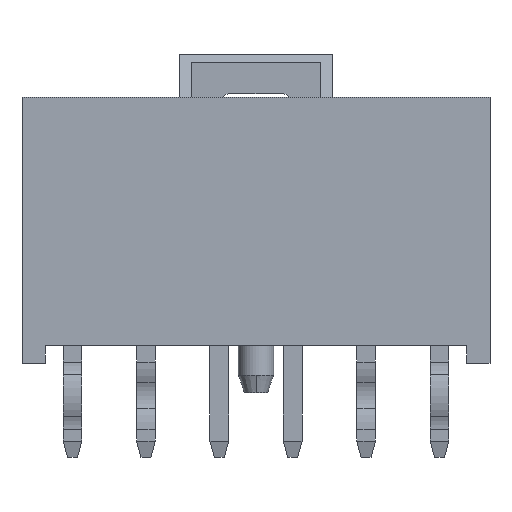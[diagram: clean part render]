
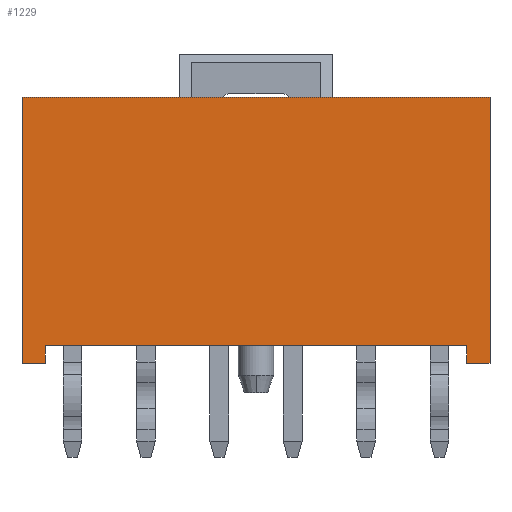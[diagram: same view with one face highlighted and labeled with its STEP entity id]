
A CAD part, front view. The second image highlights one B-rep face of the part: STEP entity #1229.
In plain terms, the highlighted planar face has unit normal (0, -1, 0).
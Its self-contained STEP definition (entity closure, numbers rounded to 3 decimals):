
#171 = EDGE_CURVE ( 'NONE', #889, #11331, #3081, .T. ) ;
#300 = CARTESIAN_POINT ( 'NONE',  ( -7.17, -1.74, -4.23 ) ) ;
#446 = DIRECTION ( 'NONE',  ( -1., 0., 0. ) ) ;
#889 = VERTEX_POINT ( 'NONE', #2585 ) ;
#904 = EDGE_CURVE ( 'NONE', #3336, #1570, #10768, .T. ) ;
#949 = DIRECTION ( 'NONE',  ( 0., 0., -1. ) ) ;
#1168 = DIRECTION ( 'NONE',  ( 0., 1., 0. ) ) ;
#1229 = ADVANCED_FACE ( 'NONE', ( #3954 ), #9616, .F. ) ;
#1570 = VERTEX_POINT ( 'NONE', #4566 ) ;
#1730 = VECTOR ( 'NONE', #446, 1000. ) ;
#1927 = CARTESIAN_POINT ( 'NONE',  ( 7.97, -1.74, -4.83 ) ) ;
#2585 = CARTESIAN_POINT ( 'NONE',  ( 7.17, -1.74, -4.23 ) ) ;
#2732 = EDGE_CURVE ( 'NONE', #6581, #13623, #13670, .T. ) ;
#2752 = EDGE_LOOP ( 'NONE', ( #16599, #14012, #16539, #16486, #5920, #5099, #8651, #11677 ) ) ;
#3081 = LINE ( 'NONE', #8747, #8598 ) ;
#3336 = VERTEX_POINT ( 'NONE', #7320 ) ;
#3921 = VECTOR ( 'NONE', #13547, 1000. ) ;
#3954 = FACE_OUTER_BOUND ( 'NONE', #2752, .T. ) ;
#4228 = CARTESIAN_POINT ( 'NONE',  ( -7.97, -1.74, 4.23 ) ) ;
#4375 = VERTEX_POINT ( 'NONE', #6668 ) ;
#4566 = CARTESIAN_POINT ( 'NONE',  ( -7.97, -1.74, -4.83 ) ) ;
#4933 = LINE ( 'NONE', #10599, #13078 ) ;
#5091 = CARTESIAN_POINT ( 'NONE',  ( -7.97, -1.74, 4.23 ) ) ;
#5099 = ORIENTED_EDGE ( 'NONE', *, *, #904, .F. ) ;
#5259 = CARTESIAN_POINT ( 'NONE',  ( -7.17, -1.74, -4.23 ) ) ;
#5920 = ORIENTED_EDGE ( 'NONE', *, *, #12212, .T. ) ;
#6211 = EDGE_CURVE ( 'NONE', #13623, #4375, #7513, .T. ) ;
#6459 = VERTEX_POINT ( 'NONE', #4228 ) ;
#6581 = VERTEX_POINT ( 'NONE', #15926 ) ;
#6668 = CARTESIAN_POINT ( 'NONE',  ( 7.17, -1.74, -4.83 ) ) ;
#6990 = LINE ( 'NONE', #12651, #12713 ) ;
#7062 = CARTESIAN_POINT ( 'NONE',  ( 7.97, -1.74, -4.83 ) ) ;
#7320 = CARTESIAN_POINT ( 'NONE',  ( -7.17, -1.74, -4.83 ) ) ;
#7513 = LINE ( 'NONE', #7062, #1730 ) ;
#7877 = CARTESIAN_POINT ( 'NONE',  ( -7.17, -1.74, -4.83 ) ) ;
#7949 = DIRECTION ( 'NONE',  ( 0., 0., -1. ) ) ;
#8598 = VECTOR ( 'NONE', #12736, 1000. ) ;
#8651 = ORIENTED_EDGE ( 'NONE', *, *, #14592, .F. ) ;
#8747 = CARTESIAN_POINT ( 'NONE',  ( 7.17, -1.74, -4.23 ) ) ;
#9616 = PLANE ( 'NONE',  #16647 ) ;
#10599 = CARTESIAN_POINT ( 'NONE',  ( -7.97, -1.74, 4.23 ) ) ;
#10664 = VECTOR ( 'NONE', #949, 1000. ) ;
#10768 = LINE ( 'NONE', #7877, #3921 ) ;
#11331 = VERTEX_POINT ( 'NONE', #300 ) ;
#11677 = ORIENTED_EDGE ( 'NONE', *, *, #171, .F. ) ;
#12106 = VECTOR ( 'NONE', #7949, 1000. ) ;
#12212 = EDGE_CURVE ( 'NONE', #6459, #1570, #4933, .T. ) ;
#12651 = CARTESIAN_POINT ( 'NONE',  ( 7.17, -1.74, -4.23 ) ) ;
#12713 = VECTOR ( 'NONE', #12836, 1000. ) ;
#12736 = DIRECTION ( 'NONE',  ( -1., 0., 0. ) ) ;
#12836 = DIRECTION ( 'NONE',  ( 0., 0., -1. ) ) ;
#13078 = VECTOR ( 'NONE', #16257, 1000. ) ;
#13547 = DIRECTION ( 'NONE',  ( -1., 0., 0. ) ) ;
#13623 = VERTEX_POINT ( 'NONE', #1927 ) ;
#13670 = LINE ( 'NONE', #16545, #10664 ) ;
#13889 = DIRECTION ( 'NONE',  ( 1., 0., 0. ) ) ;
#14012 = ORIENTED_EDGE ( 'NONE', *, *, #6211, .F. ) ;
#14136 = EDGE_CURVE ( 'NONE', #889, #4375, #6990, .T. ) ;
#14592 = EDGE_CURVE ( 'NONE', #11331, #3336, #15368, .T. ) ;
#15219 = VECTOR ( 'NONE', #16593, 1000. ) ;
#15282 = CARTESIAN_POINT ( 'NONE',  ( 0., -1.74, 0. ) ) ;
#15368 = LINE ( 'NONE', #5259, #12106 ) ;
#15926 = CARTESIAN_POINT ( 'NONE',  ( 7.97, -1.74, 4.23 ) ) ;
#16257 = DIRECTION ( 'NONE',  ( 0., 0., -1. ) ) ;
#16486 = ORIENTED_EDGE ( 'NONE', *, *, #16750, .F. ) ;
#16503 = LINE ( 'NONE', #5091, #15219 ) ;
#16539 = ORIENTED_EDGE ( 'NONE', *, *, #2732, .F. ) ;
#16545 = CARTESIAN_POINT ( 'NONE',  ( 7.97, -1.74, 4.23 ) ) ;
#16593 = DIRECTION ( 'NONE',  ( 1., 0., 0. ) ) ;
#16599 = ORIENTED_EDGE ( 'NONE', *, *, #14136, .T. ) ;
#16647 = AXIS2_PLACEMENT_3D ( 'NONE', #15282, #1168, #13889 ) ;
#16750 = EDGE_CURVE ( 'NONE', #6459, #6581, #16503, .T. ) ;
